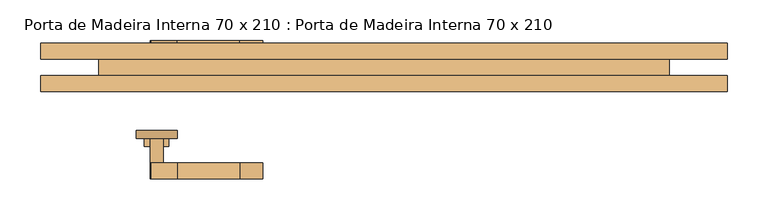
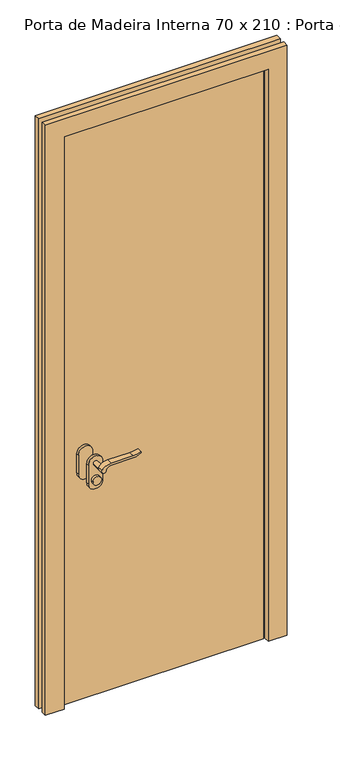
"""IFC4 building model written with IfcOpenShell, lengths in millimetres: door geometry, Porta de Madeira Interna 70 x 210 : Porta de Madeira Interna 70 x 210."""

from ifc_helpers import new_model, si_unit, point, frame, frame_2d, origin, origin_with_axes, place, context, project, spatial, polyline, circle_curve, trimmed, segment, composite_curve, outline, extrude, source, transform, mapped, element, save


def porta_de_madeira_interna_70_x_210_porta_de_madeira_interna_c85fdb76(model_context):
    return source(origin(), model_context, "Body", "SweptSolid", [
        extrude(outline(composite_curve([segment(trimmed(circle_curve(frame_2d((854.4, -279.0)), 15.0), [point((854.4, -264.0))], [point((854.4, -294.0))], False, "CARTESIAN"), True, "CONTINUOUS"), segment(trimmed(circle_curve(frame_2d((854.4, -279.0)), 15.0), [point((854.4, -294.0))], [point((854.4, -264.0))], False, "CARTESIAN"), True, "CONTINUOUS")], self_intersect=False)), frame((0.0, -93.975, 0.0), z_axis=(0.0, 1.0, 0.0), x_axis=(0.0, 0.0, 1.0)), (0.0, 0.0, 1.0), 10.0),
        extrude(outline(composite_curve([segment(trimmed(circle_curve(frame_2d((854.4, -279.0)), 15.0), [point((854.4, -264.0))], [point((854.4, -294.0))], False, "CARTESIAN"), True, "CONTINUOUS"), segment(trimmed(circle_curve(frame_2d((854.4, -279.0)), 15.0), [point((854.4, -294.0))], [point((854.4, -264.0))], False, "CARTESIAN"), True, "CONTINUOUS")], self_intersect=False)), frame((0.0, -13.975, 0.0), z_axis=(0.0, 1.0, 0.0), x_axis=(0.0, 0.0, 1.0)), (0.0, 0.0, 1.0), 10.0),
        extrude(outline(composite_curve([segment(trimmed(circle_curve(frame_2d((914.4, -279.0)), 8.0), [point((919.0523287, -285.5081363))], [point((914.4, -271.0))], False, "CARTESIAN"), True, "CONTINUOUS"), segment(trimmed(circle_curve(frame_2d((909.2738613, -253.6138099)), 18.1261387), [point((914.4, -271.0))], [point((927.4, -253.6138099))], True, "CARTESIAN"), True, "CONTINUOUS"), segment(polyline([(927.4, -253.6138099), (927.4, -177.3564091)]), True, "CONTINUOUS"), segment(trimmed(circle_curve(frame_2d((986.6709207, -180.9396612)), 59.3791355), [point((927.4, -177.3564091))], [point((936.6135558, -149.0))], False, "CARTESIAN"), True, "CONTINUOUS"), segment(polyline([(936.6135558, -149.0), (939.4, -149.0)]), True, "CONTINUOUS"), segment(trimmed(circle_curve(frame_2d((1017.6850638, -177.4227909)), 83.2850902), [point((939.4, -149.0))], [point((934.4, -177.3564091))], True, "CARTESIAN"), True, "CONTINUOUS"), segment(polyline([(934.4, -177.3564091), (934.4, -253.6325667)]), True, "CONTINUOUS"), segment(trimmed(circle_curve(frame_2d((897.1555521, -255.3324871)), 37.2832219), [point((934.4, -253.6325667))], [point((919.0523287, -285.5081363))], False, "CARTESIAN"), True, "CONTINUOUS")], self_intersect=False)), frame((0.0, -133.975, 0.0), z_axis=(0.0, 1.0, 0.0), x_axis=(0.0, 0.0, 1.0)), (0.0, 0.0, 1.0), 20.0),
        extrude(outline(composite_curve([segment(trimmed(circle_curve(frame_2d((909.2738682, -253.6138122)), 18.1261318), [point((914.3999903, -271.0))], [point((927.4, -253.6138122))], True, "CARTESIAN"), True, "CONTINUOUS"), segment(polyline([(927.4, -253.6138122), (927.4, -177.3564091)]), True, "CONTINUOUS"), segment(trimmed(circle_curve(frame_2d((986.6709207, -180.9396612)), 59.3791355), [point((927.4, -177.3564091))], [point((936.6135558, -149.0))], False, "CARTESIAN"), True, "CONTINUOUS"), segment(polyline([(936.6135558, -149.0), (939.4, -149.0)]), True, "CONTINUOUS"), segment(trimmed(circle_curve(frame_2d((1017.6850638, -177.4227909)), 83.2850902), [point((939.4, -149.0))], [point((934.4, -177.3564091))], True, "CARTESIAN"), True, "CONTINUOUS"), segment(polyline([(934.4, -177.3564091), (934.4, -253.6325667)]), True, "CONTINUOUS"), segment(trimmed(circle_curve(frame_2d((897.1555521, -255.3324871)), 37.2832219), [point((934.4, -253.6325667))], [point((919.0523287, -285.5081363))], False, "CARTESIAN"), True, "CONTINUOUS"), segment(trimmed(circle_curve(frame_2d((914.4, -279.0)), 8.0), [point((919.0523287, -285.5081363))], [point((914.3999903, -271.0))], False, "CARTESIAN"), True, "CONTINUOUS")], self_intersect=False)), frame((0.0, 16.025, 0.0), z_axis=(0.0, 1.0, 0.0), x_axis=(0.0, 0.0, 1.0)), (0.0, 0.0, 1.0), 20.0),
        extrude(outline(composite_curve([segment(trimmed(circle_curve(frame_2d((914.4, -279.0)), 8.0), [point((914.4, -271.0))], [point((914.4, -287.0))], False, "CARTESIAN"), True, "CONTINUOUS"), segment(trimmed(circle_curve(frame_2d((914.4, -279.0)), 8.0), [point((914.4, -287.0))], [point((914.4, -271.0))], False, "CARTESIAN"), True, "CONTINUOUS")], self_intersect=False)), frame((0.0, -113.975, 0.0), z_axis=(0.0, 1.0, 0.0), x_axis=(0.0, 0.0, 1.0)), (0.0, 0.0, 1.0), 30.0),
        extrude(outline(composite_curve([segment(trimmed(circle_curve(frame_2d((914.4, -279.0)), 8.0), [point((914.4, -271.0))], [point((914.4, -287.0))], False, "CARTESIAN"), True, "CONTINUOUS"), segment(trimmed(circle_curve(frame_2d((914.4, -279.0)), 8.0), [point((914.4, -287.0))], [point((914.4, -271.0))], False, "CARTESIAN"), True, "CONTINUOUS")], self_intersect=False)), frame((0.0, -13.975, 0.0), z_axis=(0.0, 1.0, 0.0), x_axis=(0.0, 0.0, 1.0)), (0.0, 0.0, 1.0), 30.0),
        extrude(outline(composite_curve([segment(trimmed(circle_curve(frame_2d((844.4, -279.0)), 25.0), [point((844.4, -304.0))], [point((844.4, -254.0))], False, "CARTESIAN"), True, "CONTINUOUS"), segment(polyline([(844.4, -254.0), (914.4, -254.0)]), True, "CONTINUOUS"), segment(trimmed(circle_curve(frame_2d((914.4, -279.0)), 25.0), [point((914.4, -254.0))], [point((914.4, -304.0))], False, "CARTESIAN"), True, "CONTINUOUS"), segment(polyline([(914.4, -304.0), (844.4, -304.0)]), True, "CONTINUOUS")], self_intersect=False)), frame((0.0, -83.975, 0.0), z_axis=(0.0, 1.0, 0.0), x_axis=(0.0, 0.0, 1.0)), (0.0, 0.0, 1.0), 10.0),
        extrude(outline(composite_curve([segment(trimmed(circle_curve(frame_2d((844.4, -279.0)), 25.0), [point((844.4, -304.0))], [point((844.4, -254.0))], False, "CARTESIAN"), True, "CONTINUOUS"), segment(polyline([(844.4, -254.0), (914.4, -254.0)]), True, "CONTINUOUS"), segment(trimmed(circle_curve(frame_2d((914.4, -279.0)), 25.0), [point((914.4, -254.0))], [point((914.4, -304.0))], False, "CARTESIAN"), True, "CONTINUOUS"), segment(polyline([(914.4, -304.0), (844.4, -304.0)]), True, "CONTINUOUS")], self_intersect=False)), frame((0.0, -23.975, 0.0), z_axis=(0.0, 1.0, 0.0), x_axis=(0.0, 0.0, 1.0)), (0.0, 0.0, 1.0), 10.0),
        extrude(outline(polyline([(350.0, 33.175), (350.0, -6.825), (-350.0, -6.825), (-350.0, 33.175), (350.0, 33.175)])), origin_with_axes(), (0.0, 0.0, 1.0), 2100.0),
        extrude(outline(polyline([(0.0, 421.35), (2171.35, 421.35), (2171.35, -421.35), (0.0, -421.35), (0.0, -356.35), (2106.35, -356.35), (2106.35, 356.35), (0.0, 356.35), (0.0, 421.35)])), frame((0.0, 13.175, 0.0), z_axis=(0.0, 1.0, 0.0), x_axis=(0.0, 0.0, 1.0)), (0.0, 0.0, 1.0), 20.0),
        extrude(outline(polyline([(0.0, 421.35), (2171.35, 421.35), (2171.35, -421.35), (0.0, -421.35), (0.0, -356.35), (2106.35, -356.35), (2106.35, 356.35), (0.0, 356.35), (0.0, 421.35)])), frame((0.0, -26.825, 0.0), z_axis=(0.0, 1.0, 0.0), x_axis=(0.0, 0.0, 1.0)), (0.0, 0.0, 1.0), 20.0),
    ])


if __name__ == "__main__":
    model = new_model("IFC4")
    model_context = context("Model", 3, world=origin())
    ifc_project = project(units=[si_unit("LENGTHUNIT", "METRE", prefix="MILLI")], contexts=[model_context])
    site = spatial("IfcSite", under=ifc_project)
    building = spatial("IfcBuilding", under=site)
    placement = place(None, origin())
    porta_de_madeira_interna_70_x_210_porta_de_madeira_interna_shape = porta_de_madeira_interna_70_x_210_porta_de_madeira_interna_c85fdb76(model_context)
    element("IfcDoor", 1, ObjectType="Porta de Madeira Interna 70 x 210 : Porta de Madeira Interna 70 x 210", at=placement, inside=building, context=model_context, shape_type="MappedRepresentation", body=[
        mapped(porta_de_madeira_interna_70_x_210_porta_de_madeira_interna_shape, transform((0.0, 0.0, 0.0), x_axis=(1.0, 0.0, 0.0), y_axis=(0.0, 1.0, 0.0), z_axis=(0.0, 0.0, 1.0))),
    ])
    save(model, "model.ifc")
